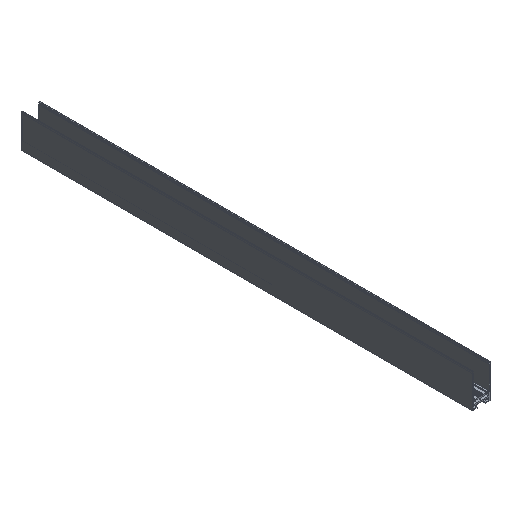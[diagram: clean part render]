
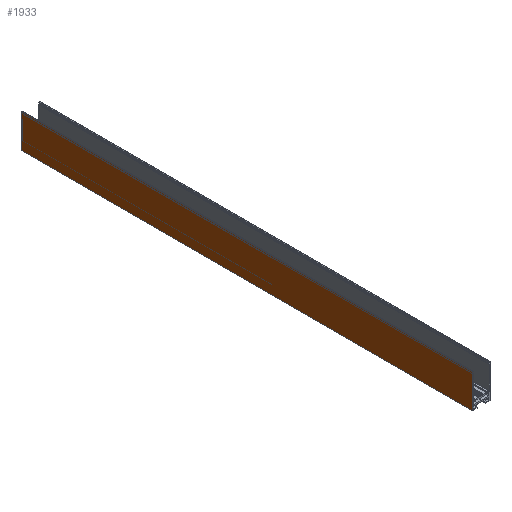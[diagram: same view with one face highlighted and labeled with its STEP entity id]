
A CAD part, isometric view. The second image highlights one B-rep face of the part: STEP entity #1933.
In plain terms, the highlighted planar face has unit normal (-1, 0, 0) as drawn and (1, 0, 0) by its records, which use the part's own axes.
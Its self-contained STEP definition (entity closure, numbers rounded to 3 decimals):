
#121=FACE_OUTER_BOUND('',#224,.T.);
#224=EDGE_LOOP('',(#1549,#1550,#1551,#1552));
#408=LINE('',#2908,#671);
#413=LINE('',#2918,#676);
#465=LINE('',#3022,#728);
#466=LINE('',#3023,#729);
#671=VECTOR('',#2376,304.8);
#676=VECTOR('',#2383,304.8);
#728=VECTOR('',#2471,304.8);
#729=VECTOR('',#2472,304.8);
#888=VERTEX_POINT('',#2905);
#889=VERTEX_POINT('',#2907);
#891=VERTEX_POINT('',#2912);
#893=VERTEX_POINT('',#2916);
#1116=EDGE_CURVE('',#889,#888,#408,.T.);
#1121=EDGE_CURVE('',#891,#893,#413,.T.);
#1173=EDGE_CURVE('',#891,#888,#465,.T.);
#1174=EDGE_CURVE('',#889,#893,#466,.T.);
#1549=ORIENTED_EDGE('',*,*,#1173,.F.);
#1550=ORIENTED_EDGE('',*,*,#1121,.T.);
#1551=ORIENTED_EDGE('',*,*,#1174,.F.);
#1552=ORIENTED_EDGE('',*,*,#1116,.T.);
#1830=PLANE('',#2049);
#1933=ADVANCED_FACE('',(#121),#1830,.T.);
#2049=AXIS2_PLACEMENT_3D('',#3021,#2469,#2470);
#2376=DIRECTION('',(0.,-1.,0.));
#2383=DIRECTION('',(0.,1.,0.));
#2469=DIRECTION('center_axis',(1.,0.,0.));
#2470=DIRECTION('ref_axis',(0.,1.,0.));
#2471=DIRECTION('',(0.,0.,1.));
#2472=DIRECTION('',(0.,0.,-1.));
#2905=CARTESIAN_POINT('',(19.7,-500.,76.));
#2907=CARTESIAN_POINT('',(19.7,500.,76.));
#2908=CARTESIAN_POINT('',(19.7,500.,76.));
#2912=CARTESIAN_POINT('',(19.7,-500.,0.));
#2916=CARTESIAN_POINT('',(19.7,500.,0.));
#2918=CARTESIAN_POINT('',(19.7,-500.,0.));
#3021=CARTESIAN_POINT('Origin',(19.7,-500.,16.644));
#3022=CARTESIAN_POINT('',(19.7,-500.,0.));
#3023=CARTESIAN_POINT('',(19.7,500.,76.));
